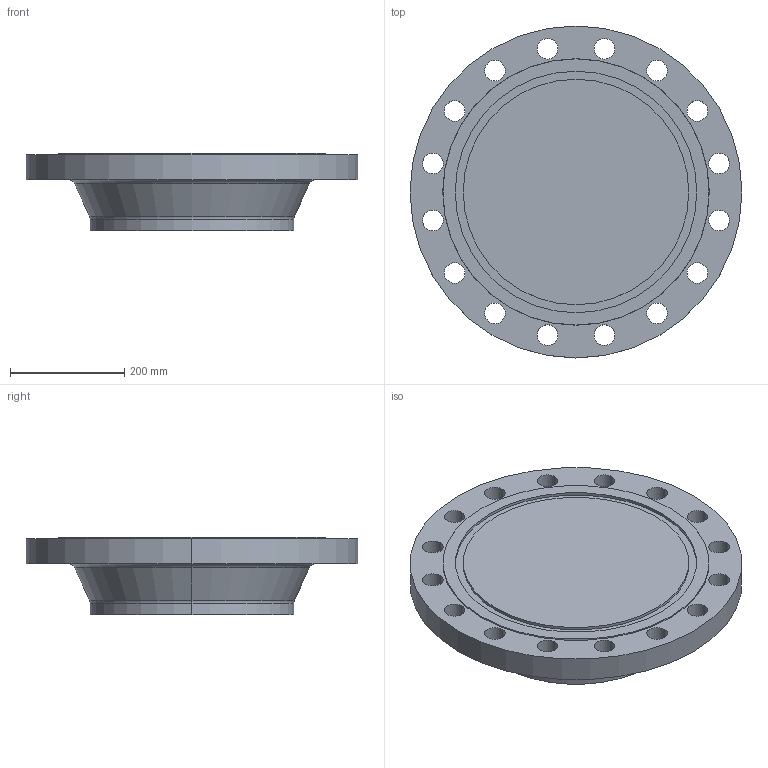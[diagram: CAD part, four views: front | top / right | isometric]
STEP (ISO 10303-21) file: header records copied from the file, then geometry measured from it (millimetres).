
FILE_DESCRIPTION (( 'STEP AP214' ), '1' );
FILE_NAME ('PN40 DN350 Type 21(ii) - Type D Face.STEP', '2019-01-05T21:44:07', ( '' ), ( '' ), 'SwSTEP 2.0', 'SolidWorks 2019', '' );
FILE_SCHEMA (( 'AUTOMOTIVE_DESIGN' ));
Length unit declared in the file: millimetre
Products named in the file (1): PN40 DN350 Type 21(ii) - Type D Face
Bounding box: 580 x 580 x 135 mm (x, y, z)
Volume: 21207798 mm3; surface area: 745496.7 mm2
Topology: 1 solids, 1 shells, 54 faces, 138 edges, 90 vertices
Faces by surface type: cylinder 40, plane 6, torus 4, cone 4
Entity records: 1786 total; most frequent: DIRECTION 342, CARTESIAN_POINT 283, ORIENTED_EDGE 276, AXIS2_PLACEMENT_3D 149, EDGE_CURVE 138, CIRCLE 94, VERTEX_POINT 90, EDGE_LOOP 90
